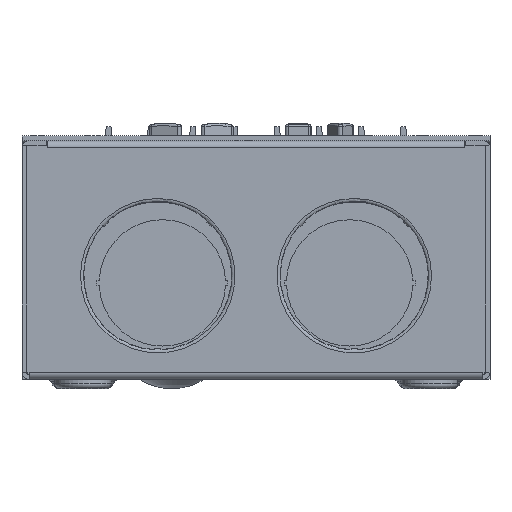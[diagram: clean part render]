
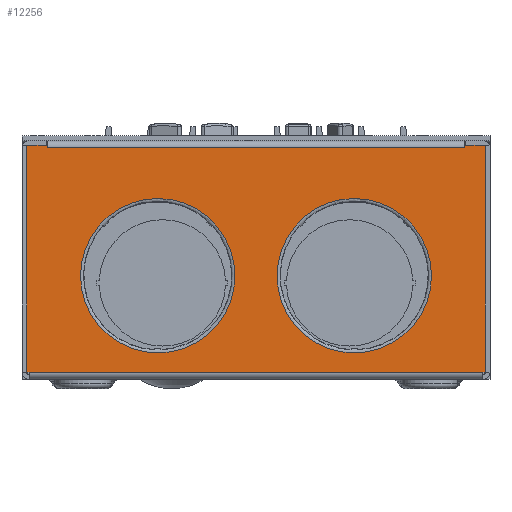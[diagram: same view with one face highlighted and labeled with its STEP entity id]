
A CAD part, front view. The second image highlights one B-rep face of the part: STEP entity #12256.
In plain terms, the highlighted planar face has unit normal (0, -1, 0).
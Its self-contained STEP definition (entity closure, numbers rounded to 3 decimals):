
#557=CIRCLE('',#13174,20.955);
#567=CIRCLE('',#13185,20.955);
#1484=ORIENTED_EDGE('',*,*,#5013,.T.);
#1485=ORIENTED_EDGE('',*,*,#5057,.F.);
#1486=ORIENTED_EDGE('',*,*,#5058,.T.);
#1487=ORIENTED_EDGE('',*,*,#5059,.T.);
#1488=ORIENTED_EDGE('',*,*,#5060,.T.);
#1489=ORIENTED_EDGE('',*,*,#5061,.F.);
#1490=ORIENTED_EDGE('',*,*,#5062,.T.);
#1491=ORIENTED_EDGE('',*,*,#5063,.T.);
#1492=ORIENTED_EDGE('',*,*,#5064,.T.);
#1493=ORIENTED_EDGE('',*,*,#5065,.T.);
#1494=ORIENTED_EDGE('',*,*,#5066,.F.);
#1495=ORIENTED_EDGE('',*,*,#5067,.F.);
#1496=ORIENTED_EDGE('',*,*,#5068,.T.);
#1497=ORIENTED_EDGE('',*,*,#5023,.T.);
#5013=EDGE_CURVE('',#6824,#6824,#557,.F.);
#5023=EDGE_CURVE('',#6831,#6831,#567,.F.);
#5057=EDGE_CURVE('',#6862,#6863,#7949,.T.);
#5058=EDGE_CURVE('',#6862,#6864,#7950,.T.);
#5059=EDGE_CURVE('',#6864,#6865,#7951,.T.);
#5060=EDGE_CURVE('',#6865,#6866,#7952,.T.);
#5061=EDGE_CURVE('',#6867,#6866,#7953,.T.);
#5062=EDGE_CURVE('',#6867,#6868,#7954,.T.);
#5063=EDGE_CURVE('',#6868,#6869,#7955,.F.);
#5064=EDGE_CURVE('',#6869,#6870,#7956,.F.);
#5065=EDGE_CURVE('',#6870,#6871,#7957,.T.);
#5066=EDGE_CURVE('',#6872,#6871,#7958,.T.);
#5067=EDGE_CURVE('',#6873,#6872,#7959,.T.);
#5068=EDGE_CURVE('',#6873,#6863,#7960,.T.);
#6824=VERTEX_POINT('',#18921);
#6831=VERTEX_POINT('',#18939);
#6862=VERTEX_POINT('',#19007);
#6863=VERTEX_POINT('',#19008);
#6864=VERTEX_POINT('',#19010);
#6865=VERTEX_POINT('',#19012);
#6866=VERTEX_POINT('',#19014);
#6867=VERTEX_POINT('',#19016);
#6868=VERTEX_POINT('',#19018);
#6869=VERTEX_POINT('',#19020);
#6870=VERTEX_POINT('',#19022);
#6871=VERTEX_POINT('',#19024);
#6872=VERTEX_POINT('',#19026);
#6873=VERTEX_POINT('',#19028);
#7949=LINE('',#19006,#9003);
#7950=LINE('',#19009,#9004);
#7951=LINE('',#19011,#9005);
#7952=LINE('',#19013,#9006);
#7953=LINE('',#19015,#9007);
#7954=LINE('',#19017,#9008);
#7955=LINE('',#19019,#9009);
#7956=LINE('',#19021,#9010);
#7957=LINE('',#19023,#9011);
#7958=LINE('',#19025,#9012);
#7959=LINE('',#19027,#9013);
#7960=LINE('',#19029,#9014);
#9003=VECTOR('',#14991,1000.);
#9004=VECTOR('',#14992,1000.);
#9005=VECTOR('',#14993,1000.);
#9006=VECTOR('',#14994,1000.);
#9007=VECTOR('',#14995,1000.);
#9008=VECTOR('',#14996,1000.);
#9009=VECTOR('',#14997,1000.);
#9010=VECTOR('',#14998,1000.);
#9011=VECTOR('',#14999,1000.);
#9012=VECTOR('',#15000,1000.);
#9013=VECTOR('',#15001,1000.);
#9014=VECTOR('',#15002,1000.);
#9986=EDGE_LOOP('',(#1484));
#9987=EDGE_LOOP('',(#1485,#1486,#1487,#1488,#1489,#1490,#1491,#1492,#1493,
#1494,#1495,#1496));
#9988=EDGE_LOOP('',(#1497));
#10966=FACE_BOUND('',#9986,.T.);
#10967=FACE_BOUND('',#9987,.T.);
#10968=FACE_BOUND('',#9988,.T.);
#11882=PLANE('',#13221);
#12256=ADVANCED_FACE('',(#10966,#10967,#10968),#11882,.T.);
#13174=AXIS2_PLACEMENT_3D('',#18920,#14895,#14896);
#13185=AXIS2_PLACEMENT_3D('',#18938,#14917,#14918);
#13221=AXIS2_PLACEMENT_3D('',#19005,#14989,#14990);
#14895=DIRECTION('',(0.,-1.,0.));
#14896=DIRECTION('',(0.,0.,1.));
#14917=DIRECTION('',(0.,-1.,0.));
#14918=DIRECTION('',(0.,0.,1.));
#14989=DIRECTION('',(0.,-1.,0.));
#14990=DIRECTION('',(0.,0.,1.));
#14991=DIRECTION('',(1.,0.,0.));
#14992=DIRECTION('',(0.,0.,1.));
#14993=DIRECTION('',(-1.,0.,0.));
#14994=DIRECTION('',(0.,0.,-1.));
#14995=DIRECTION('',(-1.,0.,0.));
#14996=DIRECTION('',(1.,0.,0.));
#14997=DIRECTION('',(-1.,0.,0.));
#14998=DIRECTION('',(0.,0.,-1.));
#14999=DIRECTION('',(-1.,0.,0.));
#15000=DIRECTION('',(0.,0.,1.));
#15001=DIRECTION('',(1.,0.,0.));
#15002=DIRECTION('',(-1.,0.,0.));
#18920=CARTESIAN_POINT('',(60.258,-118.11,-6.854));
#18921=CARTESIAN_POINT('',(60.258,-118.11,14.101));
#18938=CARTESIAN_POINT('',(6.918,-118.11,-6.854));
#18939=CARTESIAN_POINT('',(6.918,-118.11,14.101));
#19005=CARTESIAN_POINT('',(-28.007,-118.11,-33.895));
#19006=CARTESIAN_POINT('',(90.228,-118.11,27.893));
#19007=CARTESIAN_POINT('',(-23.054,-118.11,27.893));
#19008=CARTESIAN_POINT('',(-23.052,-118.11,27.893));
#19009=CARTESIAN_POINT('',(-23.054,-118.11,27.893));
#19010=CARTESIAN_POINT('',(-23.054,-118.11,28.528));
#19011=CARTESIAN_POINT('',(95.183,-118.11,28.528));
#19012=CARTESIAN_POINT('',(-28.64,-118.11,28.528));
#19013=CARTESIAN_POINT('',(-28.64,-118.11,-33.895));
#19014=CARTESIAN_POINT('',(-28.64,-118.11,-33.067));
#19015=CARTESIAN_POINT('',(-28.007,-118.11,-33.067));
#19016=CARTESIAN_POINT('',(-28.007,-118.11,-33.067));
#19017=CARTESIAN_POINT('',(-28.007,-118.11,-33.067));
#19018=CARTESIAN_POINT('',(95.183,-118.11,-33.067));
#19019=CARTESIAN_POINT('',(95.183,-118.11,-33.067));
#19020=CARTESIAN_POINT('',(95.816,-118.11,-33.067));
#19021=CARTESIAN_POINT('',(95.816,-118.11,-33.895));
#19022=CARTESIAN_POINT('',(95.816,-118.11,28.528));
#19023=CARTESIAN_POINT('',(95.183,-118.11,28.528));
#19024=CARTESIAN_POINT('',(90.23,-118.11,28.528));
#19025=CARTESIAN_POINT('',(90.23,-118.11,27.893));
#19026=CARTESIAN_POINT('',(90.23,-118.11,27.893));
#19027=CARTESIAN_POINT('',(90.228,-118.11,27.893));
#19028=CARTESIAN_POINT('',(90.228,-118.11,27.893));
#19029=CARTESIAN_POINT('',(90.228,-118.11,27.893));
